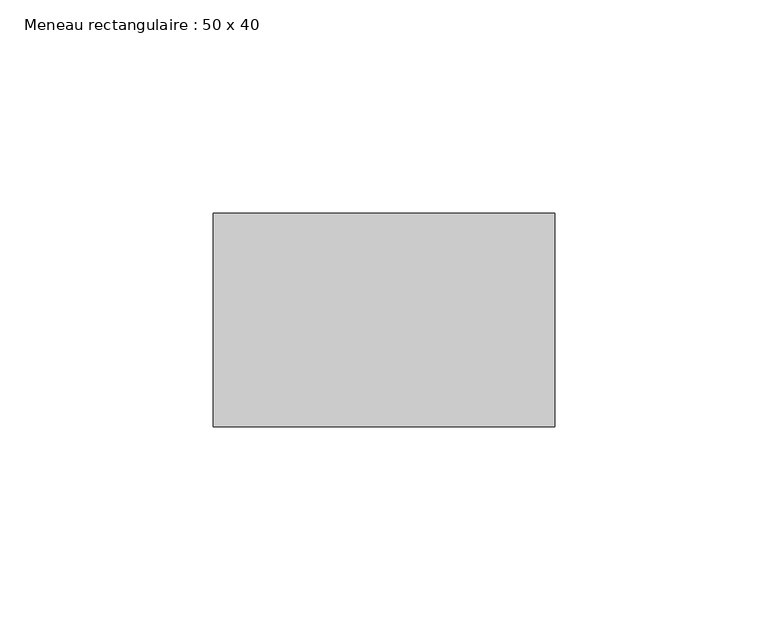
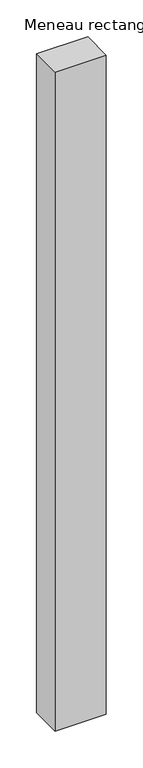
"""IFC4 building model written with IfcOpenShell, lengths in millimetres: member geometry, Meneau rectangulaire : 50 x 40."""

from ifc_helpers import new_model, si_unit, frame, origin, place, context, project, spatial, polyline, outline, extrude, source, transform, mapped, element, save


def meneau_rectangulaire_50_x_40_ebc10123(model_context):
    return source(origin(), model_context, "Body", "SweptSolid", [
        extrude(outline(polyline([(40.0, 0.0), (40.0, -50.0), (-40.0, -50.0), (-40.0, 0.0), (40.0, 0.0)])), frame((0.0, 0.0, -1090.0), z_axis=(0.0, 0.0, 1.0), x_axis=(1.0, 0.0, 0.0)), (0.0, 0.0, 1.0), 1090.0),
    ])


if __name__ == "__main__":
    model = new_model("IFC4")
    model_context = context("Model", 3, world=origin())
    ifc_project = project(units=[si_unit("LENGTHUNIT", "METRE", prefix="MILLI")], contexts=[model_context])
    site = spatial("IfcSite", under=ifc_project)
    building = spatial("IfcBuilding", under=site)
    placement = place(None, origin())
    meneau_rectangulaire_50_x_40_shape = meneau_rectangulaire_50_x_40_ebc10123(model_context)
    element("IfcMember", 1, ObjectType="Meneau rectangulaire : 50 x 40", at=placement, inside=building, context=model_context, shape_type="MappedRepresentation", body=[
        mapped(meneau_rectangulaire_50_x_40_shape, transform((0.0, 0.0, 0.0), x_axis=(1.0, 0.0, 0.0), y_axis=(0.0, 1.0, 0.0), z_axis=(0.0, 0.0, 1.0))),
    ])
    save(model, "model.ifc")
